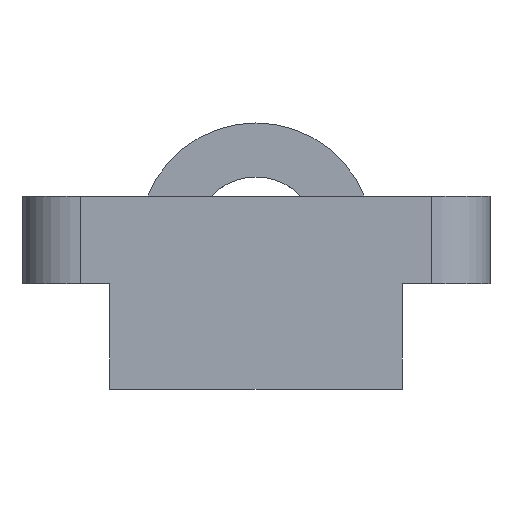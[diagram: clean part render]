
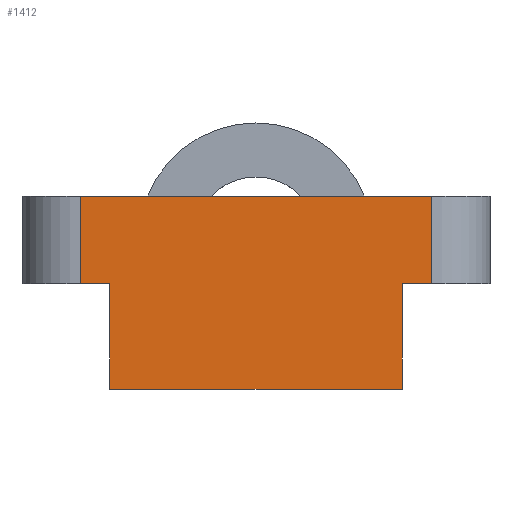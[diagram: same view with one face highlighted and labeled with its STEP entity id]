
A CAD part, front view. The second image highlights one B-rep face of the part: STEP entity #1412.
In plain terms, the highlighted planar face has unit normal (0, -1, 0).
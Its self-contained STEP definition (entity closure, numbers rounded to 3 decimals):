
#44 = PLANE('',#45);
#45 = AXIS2_PLACEMENT_3D('',#46,#47,#48);
#46 = CARTESIAN_POINT('',(-8.,-20.,0.));
#47 = DIRECTION('',(0.,0.,1.));
#48 = DIRECTION('',(1.,0.,0.));
#100 = PLANE('',#101);
#101 = AXIS2_PLACEMENT_3D('',#102,#103,#104);
#102 = CARTESIAN_POINT('',(-8.,-20.,3.));
#103 = DIRECTION('',(0.,0.,1.));
#104 = DIRECTION('',(1.,0.,0.));
#208 = PLANE('',#209);
#209 = AXIS2_PLACEMENT_3D('',#210,#211,#212);
#210 = CARTESIAN_POINT('',(-8.,-20.,0.));
#211 = DIRECTION('',(0.,0.,1.));
#212 = DIRECTION('',(1.,0.,0.));
#236 = PLANE('',#237);
#237 = AXIS2_PLACEMENT_3D('',#238,#239,#240);
#238 = CARTESIAN_POINT('',(5.,-20.,-3.6));
#239 = DIRECTION('',(1.,0.,0.));
#240 = DIRECTION('',(0.,0.,1.));
#264 = PLANE('',#265);
#265 = AXIS2_PLACEMENT_3D('',#266,#267,#268);
#266 = CARTESIAN_POINT('',(-5.,-20.,-3.6));
#267 = DIRECTION('',(0.,0.,1.));
#268 = DIRECTION('',(1.,0.,0.));
#290 = PLANE('',#291);
#291 = AXIS2_PLACEMENT_3D('',#292,#293,#294);
#292 = CARTESIAN_POINT('',(-5.,-20.,-3.6));
#293 = DIRECTION('',(1.,0.,0.));
#294 = DIRECTION('',(0.,0.,1.));
#394 = VERTEX_POINT('',#395);
#395 = CARTESIAN_POINT('',(-6.,-20.,0.));
#410 = CYLINDRICAL_SURFACE('',#411,2.);
#411 = AXIS2_PLACEMENT_3D('',#412,#413,#414);
#412 = CARTESIAN_POINT('',(-6.,-18.,0.));
#413 = DIRECTION('',(0.,0.,1.));
#414 = DIRECTION('',(-1.,-0.,0.));
#422 = EDGE_CURVE('',#394,#423,#425,.T.);
#423 = VERTEX_POINT('',#424);
#424 = CARTESIAN_POINT('',(-5.,-20.,0.));
#425 = SURFACE_CURVE('',#426,(#430,#437),.PCURVE_S1.);
#426 = LINE('',#427,#428);
#427 = CARTESIAN_POINT('',(-8.,-20.,0.));
#428 = VECTOR('',#429,1.);
#429 = DIRECTION('',(1.,0.,0.));
#430 = PCURVE('',#44,#431);
#431 = DEFINITIONAL_REPRESENTATION('',(#432),#436);
#432 = LINE('',#433,#434);
#433 = CARTESIAN_POINT('',(0.,0.));
#434 = VECTOR('',#435,1.);
#435 = DIRECTION('',(1.,0.));
#436 = ( GEOMETRIC_REPRESENTATION_CONTEXT(2) 
PARAMETRIC_REPRESENTATION_CONTEXT() REPRESENTATION_CONTEXT('2D SPACE',''
  ) );
#437 = PCURVE('',#438,#443);
#438 = PLANE('',#439);
#439 = AXIS2_PLACEMENT_3D('',#440,#441,#442);
#440 = CARTESIAN_POINT('',(-8.,-20.,0.));
#441 = DIRECTION('',(0.,1.,0.));
#442 = DIRECTION('',(0.,0.,1.));
#443 = DEFINITIONAL_REPRESENTATION('',(#444),#448);
#444 = LINE('',#445,#446);
#445 = CARTESIAN_POINT('',(0.,0.));
#446 = VECTOR('',#447,1.);
#447 = DIRECTION('',(0.,1.));
#448 = ( GEOMETRIC_REPRESENTATION_CONTEXT(2) 
PARAMETRIC_REPRESENTATION_CONTEXT() REPRESENTATION_CONTEXT('2D SPACE',''
  ) );
#524 = EDGE_CURVE('',#525,#423,#527,.T.);
#525 = VERTEX_POINT('',#526);
#526 = CARTESIAN_POINT('',(-5.,-20.,-3.6));
#527 = SURFACE_CURVE('',#528,(#532,#539),.PCURVE_S1.);
#528 = LINE('',#529,#530);
#529 = CARTESIAN_POINT('',(-5.,-20.,-3.6));
#530 = VECTOR('',#531,1.);
#531 = DIRECTION('',(0.,0.,1.));
#532 = PCURVE('',#290,#533);
#533 = DEFINITIONAL_REPRESENTATION('',(#534),#538);
#534 = LINE('',#535,#536);
#535 = CARTESIAN_POINT('',(0.,0.));
#536 = VECTOR('',#537,1.);
#537 = DIRECTION('',(1.,0.));
#538 = ( GEOMETRIC_REPRESENTATION_CONTEXT(2) 
PARAMETRIC_REPRESENTATION_CONTEXT() REPRESENTATION_CONTEXT('2D SPACE',''
  ) );
#539 = PCURVE('',#438,#540);
#540 = DEFINITIONAL_REPRESENTATION('',(#541),#545);
#541 = LINE('',#542,#543);
#542 = CARTESIAN_POINT('',(-3.6,3.));
#543 = VECTOR('',#544,1.);
#544 = DIRECTION('',(1.,0.));
#545 = ( GEOMETRIC_REPRESENTATION_CONTEXT(2) 
PARAMETRIC_REPRESENTATION_CONTEXT() REPRESENTATION_CONTEXT('2D SPACE',''
  ) );
#599 = VERTEX_POINT('',#600);
#600 = CARTESIAN_POINT('',(-6.,-20.,3.));
#622 = EDGE_CURVE('',#599,#623,#625,.T.);
#623 = VERTEX_POINT('',#624);
#624 = CARTESIAN_POINT('',(6.,-20.,3.));
#625 = SURFACE_CURVE('',#626,(#630,#637),.PCURVE_S1.);
#626 = LINE('',#627,#628);
#627 = CARTESIAN_POINT('',(-8.,-20.,3.));
#628 = VECTOR('',#629,1.);
#629 = DIRECTION('',(1.,0.,0.));
#630 = PCURVE('',#100,#631);
#631 = DEFINITIONAL_REPRESENTATION('',(#632),#636);
#632 = LINE('',#633,#634);
#633 = CARTESIAN_POINT('',(0.,0.));
#634 = VECTOR('',#635,1.);
#635 = DIRECTION('',(1.,0.));
#636 = ( GEOMETRIC_REPRESENTATION_CONTEXT(2) 
PARAMETRIC_REPRESENTATION_CONTEXT() REPRESENTATION_CONTEXT('2D SPACE',''
  ) );
#637 = PCURVE('',#438,#638);
#638 = DEFINITIONAL_REPRESENTATION('',(#639),#643);
#639 = LINE('',#640,#641);
#640 = CARTESIAN_POINT('',(3.,0.));
#641 = VECTOR('',#642,1.);
#642 = DIRECTION('',(0.,1.));
#643 = ( GEOMETRIC_REPRESENTATION_CONTEXT(2) 
PARAMETRIC_REPRESENTATION_CONTEXT() REPRESENTATION_CONTEXT('2D SPACE',''
  ) );
#666 = CYLINDRICAL_SURFACE('',#667,2.);
#667 = AXIS2_PLACEMENT_3D('',#668,#669,#670);
#668 = CARTESIAN_POINT('',(6.,-18.,0.));
#669 = DIRECTION('',(0.,0.,1.));
#670 = DIRECTION('',(1.,0.,-0.));
#962 = EDGE_CURVE('',#525,#963,#965,.T.);
#963 = VERTEX_POINT('',#964);
#964 = CARTESIAN_POINT('',(5.,-20.,-3.6));
#965 = SURFACE_CURVE('',#966,(#970,#977),.PCURVE_S1.);
#966 = LINE('',#967,#968);
#967 = CARTESIAN_POINT('',(-5.,-20.,-3.6));
#968 = VECTOR('',#969,1.);
#969 = DIRECTION('',(1.,0.,0.));
#970 = PCURVE('',#264,#971);
#971 = DEFINITIONAL_REPRESENTATION('',(#972),#976);
#972 = LINE('',#973,#974);
#973 = CARTESIAN_POINT('',(0.,0.));
#974 = VECTOR('',#975,1.);
#975 = DIRECTION('',(1.,0.));
#976 = ( GEOMETRIC_REPRESENTATION_CONTEXT(2) 
PARAMETRIC_REPRESENTATION_CONTEXT() REPRESENTATION_CONTEXT('2D SPACE',''
  ) );
#977 = PCURVE('',#438,#978);
#978 = DEFINITIONAL_REPRESENTATION('',(#979),#983);
#979 = LINE('',#980,#981);
#980 = CARTESIAN_POINT('',(-3.6,3.));
#981 = VECTOR('',#982,1.);
#982 = DIRECTION('',(0.,1.));
#983 = ( GEOMETRIC_REPRESENTATION_CONTEXT(2) 
PARAMETRIC_REPRESENTATION_CONTEXT() REPRESENTATION_CONTEXT('2D SPACE',''
  ) );
#1108 = EDGE_CURVE('',#963,#1109,#1111,.T.);
#1109 = VERTEX_POINT('',#1110);
#1110 = CARTESIAN_POINT('',(5.,-20.,0.));
#1111 = SURFACE_CURVE('',#1112,(#1116,#1123),.PCURVE_S1.);
#1112 = LINE('',#1113,#1114);
#1113 = CARTESIAN_POINT('',(5.,-20.,-3.6));
#1114 = VECTOR('',#1115,1.);
#1115 = DIRECTION('',(0.,0.,1.));
#1116 = PCURVE('',#236,#1117);
#1117 = DEFINITIONAL_REPRESENTATION('',(#1118),#1122);
#1118 = LINE('',#1119,#1120);
#1119 = CARTESIAN_POINT('',(0.,0.));
#1120 = VECTOR('',#1121,1.);
#1121 = DIRECTION('',(1.,0.));
#1122 = ( GEOMETRIC_REPRESENTATION_CONTEXT(2) 
PARAMETRIC_REPRESENTATION_CONTEXT() REPRESENTATION_CONTEXT('2D SPACE',''
  ) );
#1123 = PCURVE('',#438,#1124);
#1124 = DEFINITIONAL_REPRESENTATION('',(#1125),#1129);
#1125 = LINE('',#1126,#1127);
#1126 = CARTESIAN_POINT('',(-3.6,13.));
#1127 = VECTOR('',#1128,1.);
#1128 = DIRECTION('',(1.,0.));
#1129 = ( GEOMETRIC_REPRESENTATION_CONTEXT(2) 
PARAMETRIC_REPRESENTATION_CONTEXT() REPRESENTATION_CONTEXT('2D SPACE',''
  ) );
#1159 = EDGE_CURVE('',#1109,#1160,#1162,.T.);
#1160 = VERTEX_POINT('',#1161);
#1161 = CARTESIAN_POINT('',(6.,-20.,0.));
#1162 = SURFACE_CURVE('',#1163,(#1167,#1174),.PCURVE_S1.);
#1163 = LINE('',#1164,#1165);
#1164 = CARTESIAN_POINT('',(-8.,-20.,0.));
#1165 = VECTOR('',#1166,1.);
#1166 = DIRECTION('',(1.,0.,0.));
#1167 = PCURVE('',#208,#1168);
#1168 = DEFINITIONAL_REPRESENTATION('',(#1169),#1173);
#1169 = LINE('',#1170,#1171);
#1170 = CARTESIAN_POINT('',(0.,0.));
#1171 = VECTOR('',#1172,1.);
#1172 = DIRECTION('',(1.,0.));
#1173 = ( GEOMETRIC_REPRESENTATION_CONTEXT(2) 
PARAMETRIC_REPRESENTATION_CONTEXT() REPRESENTATION_CONTEXT('2D SPACE',''
  ) );
#1174 = PCURVE('',#438,#1175);
#1175 = DEFINITIONAL_REPRESENTATION('',(#1176),#1180);
#1176 = LINE('',#1177,#1178);
#1177 = CARTESIAN_POINT('',(0.,0.));
#1178 = VECTOR('',#1179,1.);
#1179 = DIRECTION('',(0.,1.));
#1180 = ( GEOMETRIC_REPRESENTATION_CONTEXT(2) 
PARAMETRIC_REPRESENTATION_CONTEXT() REPRESENTATION_CONTEXT('2D SPACE',''
  ) );
#1412 = ADVANCED_FACE('',(#1413),#438,.F.);
#1413 = FACE_BOUND('',#1414,.F.);
#1414 = EDGE_LOOP('',(#1415,#1416,#1437,#1438,#1459,#1460,#1461,#1462));
#1415 = ORIENTED_EDGE('',*,*,#422,.F.);
#1416 = ORIENTED_EDGE('',*,*,#1417,.T.);
#1417 = EDGE_CURVE('',#394,#599,#1418,.T.);
#1418 = SURFACE_CURVE('',#1419,(#1423,#1430),.PCURVE_S1.);
#1419 = LINE('',#1420,#1421);
#1420 = CARTESIAN_POINT('',(-6.,-20.,0.));
#1421 = VECTOR('',#1422,1.);
#1422 = DIRECTION('',(0.,0.,1.));
#1423 = PCURVE('',#438,#1424);
#1424 = DEFINITIONAL_REPRESENTATION('',(#1425),#1429);
#1425 = LINE('',#1426,#1427);
#1426 = CARTESIAN_POINT('',(0.,2.));
#1427 = VECTOR('',#1428,1.);
#1428 = DIRECTION('',(1.,0.));
#1429 = ( GEOMETRIC_REPRESENTATION_CONTEXT(2) 
PARAMETRIC_REPRESENTATION_CONTEXT() REPRESENTATION_CONTEXT('2D SPACE',''
  ) );
#1430 = PCURVE('',#410,#1431);
#1431 = DEFINITIONAL_REPRESENTATION('',(#1432),#1436);
#1432 = LINE('',#1433,#1434);
#1433 = CARTESIAN_POINT('',(1.571,0.));
#1434 = VECTOR('',#1435,1.);
#1435 = DIRECTION('',(0.,1.));
#1436 = ( GEOMETRIC_REPRESENTATION_CONTEXT(2) 
PARAMETRIC_REPRESENTATION_CONTEXT() REPRESENTATION_CONTEXT('2D SPACE',''
  ) );
#1437 = ORIENTED_EDGE('',*,*,#622,.T.);
#1438 = ORIENTED_EDGE('',*,*,#1439,.F.);
#1439 = EDGE_CURVE('',#1160,#623,#1440,.T.);
#1440 = SURFACE_CURVE('',#1441,(#1445,#1452),.PCURVE_S1.);
#1441 = LINE('',#1442,#1443);
#1442 = CARTESIAN_POINT('',(6.,-20.,0.));
#1443 = VECTOR('',#1444,1.);
#1444 = DIRECTION('',(0.,0.,1.));
#1445 = PCURVE('',#438,#1446);
#1446 = DEFINITIONAL_REPRESENTATION('',(#1447),#1451);
#1447 = LINE('',#1448,#1449);
#1448 = CARTESIAN_POINT('',(0.,14.));
#1449 = VECTOR('',#1450,1.);
#1450 = DIRECTION('',(1.,0.));
#1451 = ( GEOMETRIC_REPRESENTATION_CONTEXT(2) 
PARAMETRIC_REPRESENTATION_CONTEXT() REPRESENTATION_CONTEXT('2D SPACE',''
  ) );
#1452 = PCURVE('',#666,#1453);
#1453 = DEFINITIONAL_REPRESENTATION('',(#1454),#1458);
#1454 = LINE('',#1455,#1456);
#1455 = CARTESIAN_POINT('',(-1.571,0.));
#1456 = VECTOR('',#1457,1.);
#1457 = DIRECTION('',(-0.,1.));
#1458 = ( GEOMETRIC_REPRESENTATION_CONTEXT(2) 
PARAMETRIC_REPRESENTATION_CONTEXT() REPRESENTATION_CONTEXT('2D SPACE',''
  ) );
#1459 = ORIENTED_EDGE('',*,*,#1159,.F.);
#1460 = ORIENTED_EDGE('',*,*,#1108,.F.);
#1461 = ORIENTED_EDGE('',*,*,#962,.F.);
#1462 = ORIENTED_EDGE('',*,*,#524,.T.);
